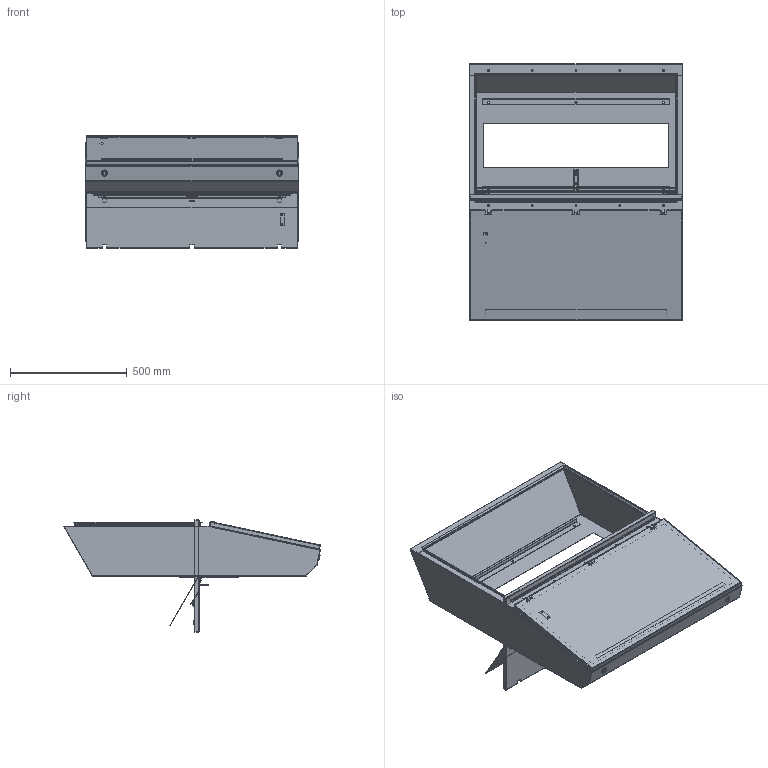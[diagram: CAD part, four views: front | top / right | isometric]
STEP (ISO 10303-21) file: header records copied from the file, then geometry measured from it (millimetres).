
FILE_DESCRIPTION( ( 'Unknown' ), '1' );
FILE_NAME( 'Q:/2000 SERIES/DESK UNITS/WEB DRAWINGS/STEP/2CSD83643.stp', 'Unknown', ( 'Unknown' ), ( 'Unknown' ), 'XStep 1.0', 'Unknown', ' ' );
FILE_SCHEMA( ( 'CONFIG_CONTROL_DESIGN' ) );
Length unit declared in the file: millimetre
Products named in the file (32): Assem1; Assem2; Assem3; Assem4; Assem5; Assem6; Assem7; Assem8; Assem9; 1; 2; 3; 4; 5; 6; 7; 8; 9; 10; 11; 12; 13; 14; 15; 16; 17; 18; 19; 20; 21; 22; 23
Bounding box: 914.4 x 1099.92 x 482.6 mm (x, y, z)
Volume: 13021982.6 mm3; surface area: 14239823.6 mm2
Topology: 103 solids, 103 shells, 2563 faces, 6376 edges, 4113 vertices
Faces by surface type: plane 1695, cylinder 705, bspline 82, cone 42, torus 33, sphere 6
Full cylindrical faces by diameter (mm): 3.175 x12, 4.648 x7, 4.763 x12, 4.801 x8, 5 x9, 5.537 x22, 5.969 x5, 6 x4, 6.096 x5, 6.299 x4, 6.35 x17, 7.137 x15, 7.925 x10, 7.938 x6, 8.331 x4, 9.804 x11, 9.83 x8, 9.931 x7, 10.312 x4, 11.1 x4, 12.7 x14, 12.751 x4, 13.335 x4, 15.875 x4, 16.002 x4, 17.45 x4, 19.5 x4, 19.939 x4, 25.4 x4
Entity records: 23457 total; most frequent: CARTESIAN_POINT 5123, DIRECTION 3455, ORIENTED_EDGE 3396, EDGE_CURVE 1698, LINE 1231, VECTOR 1231, VERTEX_POINT 1124, AXIS2_PLACEMENT_3D 1112
